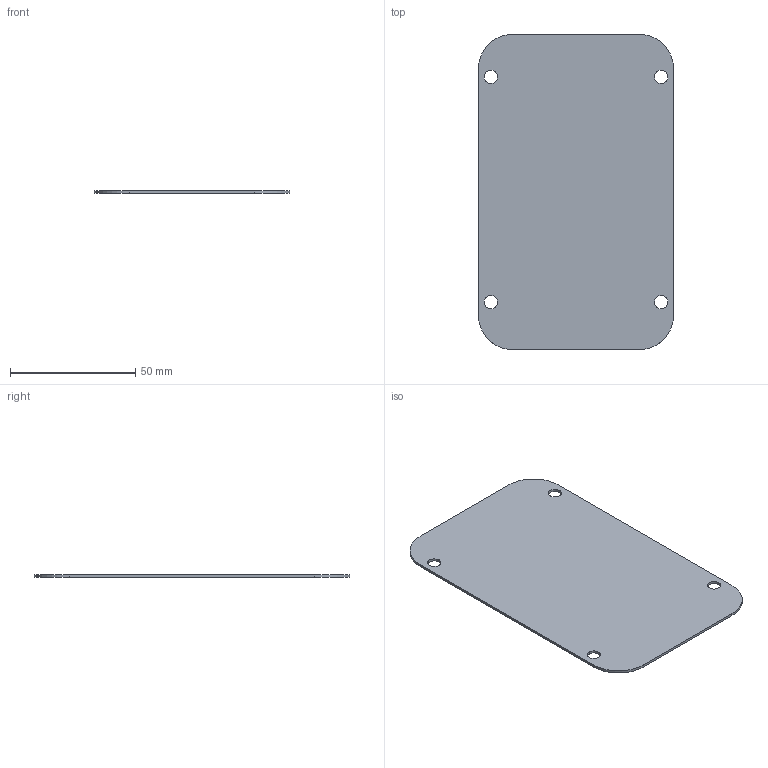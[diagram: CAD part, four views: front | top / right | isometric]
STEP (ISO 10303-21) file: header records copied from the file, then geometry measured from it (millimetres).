
FILE_DESCRIPTION(('Open CASCADE Model'),'2;1');
FILE_NAME('Open CASCADE Shape Model','2026-09-04T20:18:27',('Author'),( 'Open CASCADE'),'Open CASCADE STEP processor 7.7','Open CASCADE 7.7' ,'Unknown');
FILE_SCHEMA(('AUTOMOTIVE_DESIGN { 1 0 10303 214 1 1 1 1 }'));
Products named in the file (1): Open CASCADE STEP translator 7.7 5
Bounding box: 78 x 126 x 1 mm (x, y, z)
Volume: 9553.1 mm3; surface area: 19654 mm2
Topology: 1 solids, 1 shells, 708 faces, 1983 edges, 1322 vertices
Faces by surface type: extrusion 421, plane 279, cylinder 8
Full cylindrical faces by diameter (mm): 5.3 x4
Entity records: 54035 total; most frequent: CARTESIAN_POINT 19077, DIRECTION 4385, ORIENTED_EDGE 3966, PCURVE 3966, DEFINITIONAL_REPRESENTATION 3966, VECTOR 3777, LINE 3356, B_SPLINE_CURVE_WITH_KNOTS 2982
